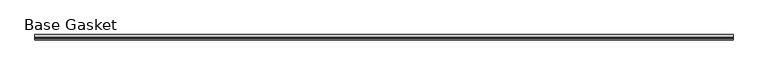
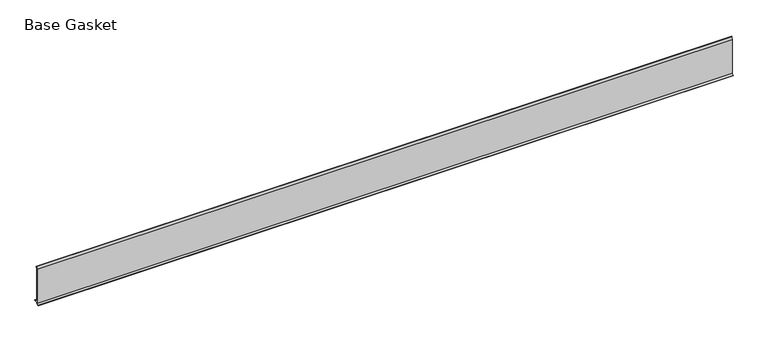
"""IFC4 building model written with IfcOpenShell, lengths in millimetres: furniture geometry, Gasket-Teknion-FHGB-AI_Healthcare-R2021 : Base Gasket."""

from ifc_helpers import new_model, si_unit, frame, origin, place, context, project, spatial, polyline, outline, extrude, source, transform, mapped, element, save


def base_gasket_4a7046be(model_context):
    return source(origin(), model_context, "Body", "SweptSolid", [
        extrude(outline(polyline([(-3.7283812, 98.4568417), (-1.1891543, 104.587663), (-0.6755308, 105.2002997), (-0.6755308, 104.4162708), (-2.2043812, 98.4568417), (-2.2043812, 96.8693477), (-1.4106313, 96.8693477), (-1.4106313, 71.4693447), (-2.2043812, 71.4693447), (-2.2043812, 7.9398773), (6.2405171, 7.9398773), (6.2405171, 6.3818476), (-2.1334222, 6.3818476), (-2.2043812, 4.3498477), (-6.8281054, 0.3520979), (-7.8482342, 0.0), (-7.4222115, 0.6560174), (-3.7283812, 4.3498477), (-3.7283812, 98.4568417)])), frame((-1527.8982117, 0.0, 0.0), z_axis=(1.0, 0.0, 0.0), x_axis=(0.0, 1.0, 0.0)), (0.0, 0.0, 1.0), 1823.7962),
    ])


if __name__ == "__main__":
    model = new_model("IFC4")
    model_context = context("Model", 3, world=origin())
    ifc_project = project(units=[si_unit("LENGTHUNIT", "METRE", prefix="MILLI")], contexts=[model_context])
    site = spatial("IfcSite", under=ifc_project)
    building = spatial("IfcBuilding", under=site)
    placement = place(None, origin())
    base_gasket_shape = base_gasket_4a7046be(model_context)
    element("IfcFurniture", 1, ObjectType="Gasket-Teknion-FHGB-AI_Healthcare-R2021 : Base Gasket", at=placement, inside=building, context=model_context, shape_type="MappedRepresentation", body=[
        mapped(base_gasket_shape, transform((0.0, 0.0, 0.0), x_axis=(1.0, 0.0, 0.0), y_axis=(0.0, 1.0, 0.0), z_axis=(0.0, 0.0, 1.0))),
    ])
    save(model, "model.ifc")
